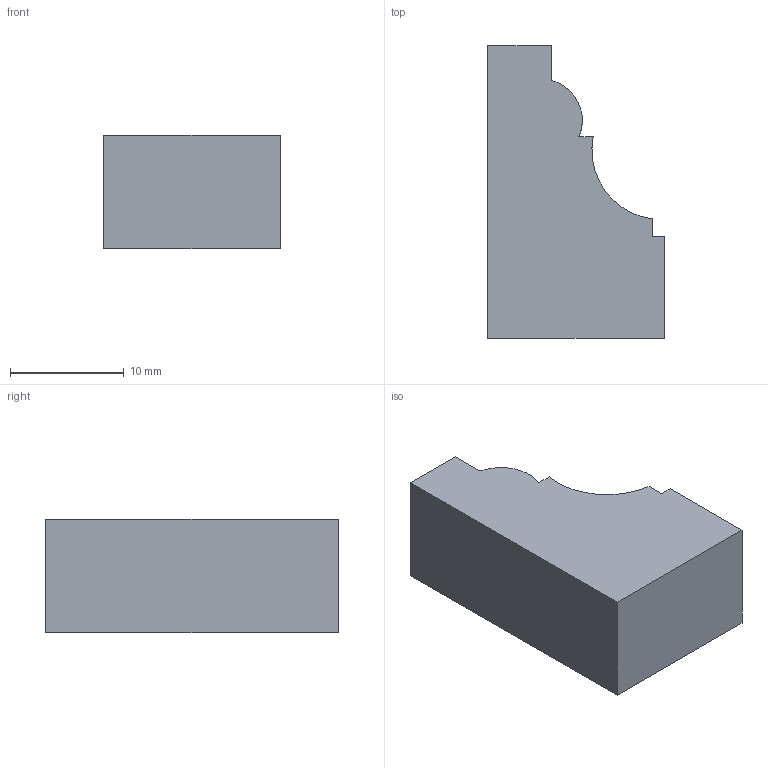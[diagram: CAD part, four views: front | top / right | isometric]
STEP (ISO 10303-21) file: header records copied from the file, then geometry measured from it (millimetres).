
FILE_DESCRIPTION (( 'STEP AP203' ), '1' );
FILE_NAME ('AB027FJ.STEP', '2024-02-16T17:47:23', ( '' ), ( '' ), 'SwSTEP 2.0', 'SolidWorks 2020', '' );
FILE_SCHEMA (( 'CONFIG_CONTROL_DESIGN' ));
Length unit declared in the file: millimetre
Products named in the file (1): AB027FJ
Bounding box: 15.52 x 25.71 x 10 mm (x, y, z)
Volume: 2906.4 mm3; surface area: 1370.4 mm2
Topology: 1 solids, 1 shells, 12 faces, 30 edges, 20 vertices
Faces by surface type: plane 10, cylinder 2
Entity records: 435 total; most frequent: CARTESIAN_POINT 63, DIRECTION 60, ORIENTED_EDGE 60, EDGE_CURVE 30, LINE 26, VECTOR 26, VERTEX_POINT 20, AXIS2_PLACEMENT_3D 17
